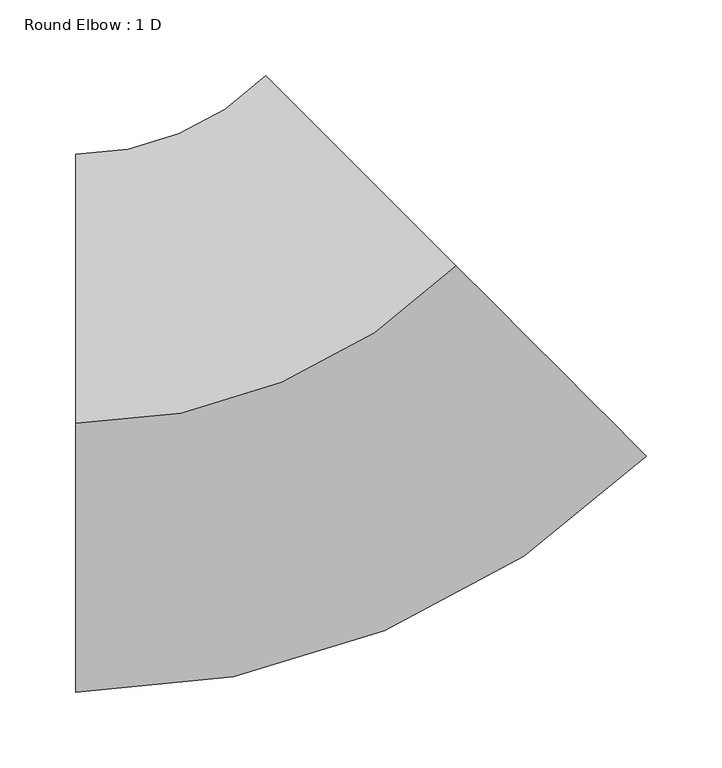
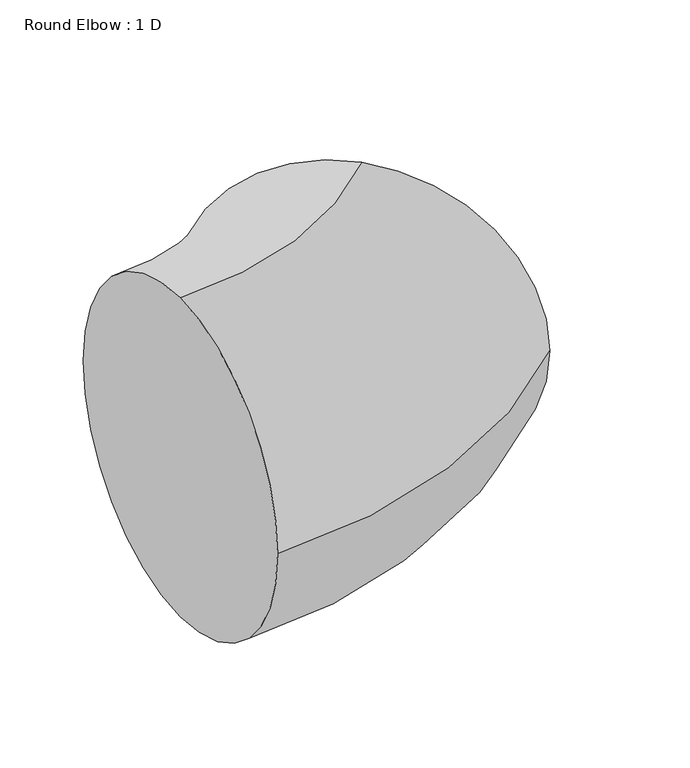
"""IFC4 building model written with IfcOpenShell, lengths in millimetres: duct fitting geometry, Round Elbow : 1 D."""

from ifc_helpers import new_model, si_unit, point, frame, origin, place, context, project, spatial, circle_curve, ellipse_curve, trimmed, source, transform, mapped, element, save
from ifc_brep_helpers import plane_surface, revolved_surface, advanced_brep


def round_elbow_1_d_146a3901(model_context):
    return source(origin(), model_context, "Body", "AdvancedBrep", [
        advanced_brep(
        [(-147.2943428, 0.0, 177.8), (-147.2943428, 177.8, 0.0), (-147.2943428, 0.0, -177.8), (-147.2943428, -177.8, 0.0), (104.1528286, 104.1528286, 177.8), (229.8764143, -21.5707571, 0.0), (104.1528286, 104.1528286, -177.8), (-21.5707571, 229.8764143, 0.0)],
        [
            (0, 1, circle_curve(frame((-147.2943428, 0.0, 0.0), z_axis=(-1.0, 0.0, 0.0), x_axis=(0.0, 1.0, 0.0)), 177.8)),
            (1, 2, circle_curve(frame((-147.2943428, 0.0, 0.0), z_axis=(-1.0, 0.0, 0.0), x_axis=(0.0, 1.0, 0.0)), 177.8)),
            (2, 3, circle_curve(frame((-147.2943428, 0.0, 0.0), z_axis=(-1.0, 0.0, 0.0), x_axis=(0.0, 1.0, 0.0)), 177.8)),
            (3, 0, circle_curve(frame((-147.2943428, 0.0, 0.0), z_axis=(-1.0, 0.0, 0.0), x_axis=(0.0, 1.0, 0.0)), 177.8)),
            (4, 5, circle_curve(frame((104.1528286, 104.1528286, 0.0), z_axis=(0.707106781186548, 0.707106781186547, 0.0), x_axis=(-0.707106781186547, 0.707106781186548, 0.0)), 177.8)),
            (5, 6, circle_curve(frame((104.1528286, 104.1528286, 0.0), z_axis=(0.707106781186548, 0.707106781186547, 0.0), x_axis=(-0.707106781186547, 0.707106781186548, 0.0)), 177.8)),
            (6, 7, circle_curve(frame((104.1528286, 104.1528286, 0.0), z_axis=(0.707106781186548, 0.707106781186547, 0.0), x_axis=(-0.707106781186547, 0.707106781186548, 0.0)), 177.8)),
            (7, 4, circle_curve(frame((104.1528286, 104.1528286, 0.0), z_axis=(0.707106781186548, 0.707106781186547, 0.0), x_axis=(-0.707106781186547, 0.707106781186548, 0.0)), 177.8)),
            (7, 1, circle_curve(frame((-147.2943428, 355.6, 0.0), z_axis=(0.0, 0.0, -1.0), x_axis=(0.0, -1.0, 0.0)), 177.8)),
            (0, 4, circle_curve(frame((-147.2943428, 355.6, 177.8), z_axis=(0.0, 0.0, 1.0), x_axis=(0.0, -1.0, 0.0)), 355.6)),
            (6, 2, circle_curve(frame((-147.2943428, 355.6, -177.8), z_axis=(0.0, 0.0, -1.0), x_axis=(0.0, -1.0, 0.0)), 355.6)),
            (5, 3, circle_curve(frame((-147.2943428, 355.6, 0.0), z_axis=(0.0, 0.0, -1.0), x_axis=(0.0, -1.0, 0.0)), 533.4)),
        ],
        [
            plane_surface(frame((-147.2943428, 0.0, 0.0), z_axis=(-1.0, 0.0, 0.0), x_axis=(0.0, 0.0, 1.0))),
            plane_surface(frame((104.1528286, 104.1528286, 0.0), z_axis=(0.707106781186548, 0.7071067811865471, 0.0), x_axis=(0.0, 0.0, 1.0))),
            revolved_surface(trimmed(ellipse_curve(frame((-147.2943428, 0.0, 0.0), z_axis=(-1.0, 0.0, 0.0), x_axis=(0.0, 1.0, 0.0)), 177.8, 177.8), [point((-147.2943428, 0.0, 177.8))], [point((-147.2943428, 177.8, 0.0))], True, "CARTESIAN"), (-147.2943428, 355.6, 0.0), (0.0, 0.0, 1.0)),
            revolved_surface(trimmed(ellipse_curve(frame((-147.2943428, 0.0, 0.0), z_axis=(-1.0, 0.0, 0.0), x_axis=(0.0, 1.0, 0.0)), 177.8, 177.8), [point((-147.2943428, 177.8, 0.0))], [point((-147.2943428, 0.0, -177.8))], True, "CARTESIAN"), (-147.2943428, 355.6, 0.0), (0.0, 0.0, 1.0)),
            revolved_surface(trimmed(ellipse_curve(frame((-147.2943428, 0.0, 0.0), z_axis=(-1.0, 0.0, 0.0), x_axis=(0.0, 1.0, 0.0)), 177.8, 177.8), [point((-147.2943428, 0.0, -177.8))], [point((-147.2943428, -177.8, 0.0))], True, "CARTESIAN"), (-147.2943428, 355.6, 0.0), (0.0, 0.0, 1.0)),
            revolved_surface(trimmed(ellipse_curve(frame((-147.2943428, 0.0, 0.0), z_axis=(-1.0, 0.0, 0.0), x_axis=(0.0, 1.0, 0.0)), 177.8, 177.8), [point((-147.2943428, -177.8, 0.0))], [point((-147.2943428, 0.0, 177.8))], True, "CARTESIAN"), (-147.2943428, 355.6, 0.0), (0.0, 0.0, 1.0)),
        ],
        [
            (0, [[1, 2, 3, 4]]),
            (1, [[5, 6, 7, 8]]),
            (2, [[9, -1, 10, -8]]),
            (3, [[11, -2, -9, -7]]),
            (4, [[12, -3, -11, -6]]),
            (5, [[-10, -4, -12, -5]]),
        ],
    ),
    ])


if __name__ == "__main__":
    model = new_model("IFC4")
    model_context = context("Model", 3, world=origin())
    ifc_project = project(units=[si_unit("LENGTHUNIT", "METRE", prefix="MILLI")], contexts=[model_context])
    site = spatial("IfcSite", under=ifc_project)
    building = spatial("IfcBuilding", under=site)
    placement = place(None, origin())
    round_elbow_1_d_shape = round_elbow_1_d_146a3901(model_context)
    element("IfcDuctFitting", 1, ObjectType="Round Elbow : 1 D", at=placement, inside=building, context=model_context, shape_type="MappedRepresentation", body=[
        mapped(round_elbow_1_d_shape, transform((0.0, 0.0, 0.0), x_axis=(1.0, 0.0, 0.0), y_axis=(0.0, 1.0, 0.0), z_axis=(0.0, 0.0, 1.0))),
    ])
    save(model, "model.ifc")
